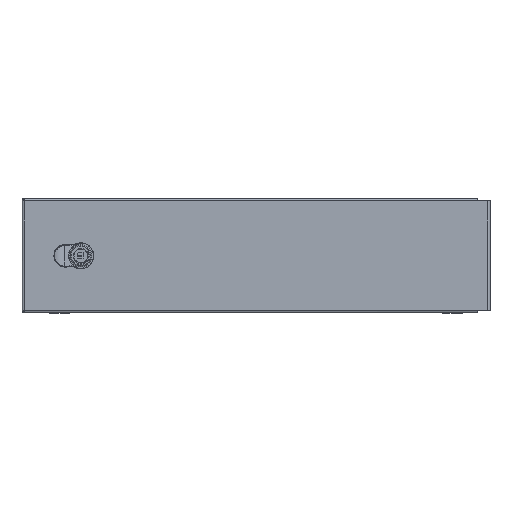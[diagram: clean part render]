
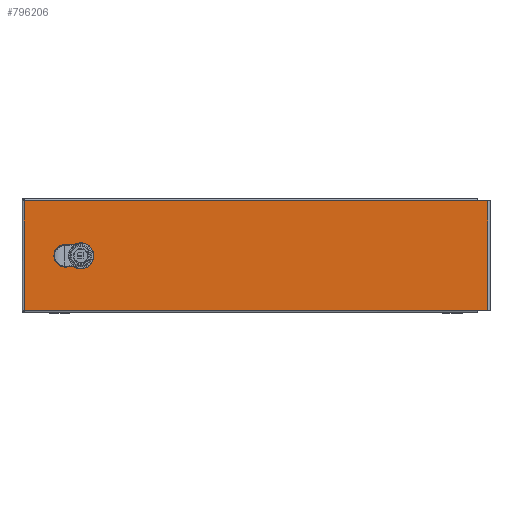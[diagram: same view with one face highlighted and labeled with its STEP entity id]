
A CAD part, top view. The second image highlights one B-rep face of the part: STEP entity #796206.
In plain terms, the highlighted planar face has unit normal (0, 0, 1).
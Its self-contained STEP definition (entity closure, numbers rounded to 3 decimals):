
#793371=CARTESIAN_POINT(' ',(337.885,104.96,78.753));
#793372=VERTEX_POINT(' ',#793371);
#795101=CARTESIAN_POINT(' ',(337.885,104.96,78.753));
#795106=DIRECTION(' ',(-1.,0.,0.));
#795111=VECTOR(' ',#795106,1.);
#795116=LINE('',#795101,#795111);
#795121=CARTESIAN_POINT(' ',(-237.315,104.96,78.753));
#795122=VERTEX_POINT(' ',#795121);
#795126=EDGE_CURVE(' ',#793372,#795122,#795116,.T.);
#795426=CARTESIAN_POINT(' ',(351.085,104.96,78.753));
#795431=DIRECTION(' ',(-1.,0.,0.));
#795436=VECTOR(' ',#795431,1.);
#795441=LINE('',#795426,#795436);
#795446=CARTESIAN_POINT(' ',(351.085,104.96,78.753));
#795447=VERTEX_POINT(' ',#795446);
#795451=EDGE_CURVE(' ',#795447,#793372,#795441,.T.);
#796026=DIRECTION(' ',(-0.,-0.,1.));
#796031=CARTESIAN_POINT(' ',(351.085,-34.44,78.753));
#796036=DIRECTION(' ',(0.,1.,0.));
#796041=AXIS2_PLACEMENT_3D(' ',#796031,#796026,#796036);
#796046=PLANE('NONE',#796041);
#796051=CARTESIAN_POINT(' ',(-237.315,-34.44,78.753));
#796056=DIRECTION(' ',(1.,0.,0.));
#796061=VECTOR(' ',#796056,1.);
#796066=LINE('',#796051,#796061);
#796071=CARTESIAN_POINT(' ',(-237.315,-34.44,78.753));
#796072=VERTEX_POINT(' ',#796071);
#796076=CARTESIAN_POINT(' ',(337.885,-34.44,78.753));
#796077=VERTEX_POINT(' ',#796076);
#796081=EDGE_CURVE(' ',#796072,#796077,#796066,.T.);
#796086=ORIENTED_EDGE(' ',*,*,#796081,.T.);
#796091=CARTESIAN_POINT(' ',(337.885,-34.44,78.753));
#796096=DIRECTION(' ',(1.,0.,0.));
#796101=VECTOR(' ',#796096,1.);
#796106=LINE('',#796091,#796101);
#796111=CARTESIAN_POINT(' ',(351.085,-34.44,78.753));
#796112=VERTEX_POINT(' ',#796111);
#796116=EDGE_CURVE(' ',#796077,#796112,#796106,.T.);
#796121=ORIENTED_EDGE(' ',*,*,#796116,.T.);
#796126=CARTESIAN_POINT(' ',(351.085,104.96,78.753));
#796131=DIRECTION(' ',(0.,-1.,0.));
#796136=VECTOR(' ',#796131,1.);
#796141=LINE('',#796126,#796136);
#796146=EDGE_CURVE(' ',#795447,#796112,#796141,.T.);
#796151=ORIENTED_EDGE(' ',*,*,#796146,.F.);
#796156=ORIENTED_EDGE(' ',*,*,#795451,.T.);
#796161=ORIENTED_EDGE(' ',*,*,#795126,.T.);
#796166=CARTESIAN_POINT(' ',(-237.315,104.96,78.753));
#796171=DIRECTION(' ',(0.,-1.,0.));
#796176=VECTOR(' ',#796171,1.);
#796181=LINE('',#796166,#796176);
#796186=EDGE_CURVE(' ',#795122,#796072,#796181,.T.);
#796191=ORIENTED_EDGE(' ',*,*,#796186,.T.);
#796196=EDGE_LOOP(' ',(#796086,#796121,#796151,#796156,#796161,#796191));
#796201=FACE_OUTER_BOUND(' ',#796196,.T.);
#796206=ADVANCED_FACE('NONE',(#796201),#796046,.T.);
